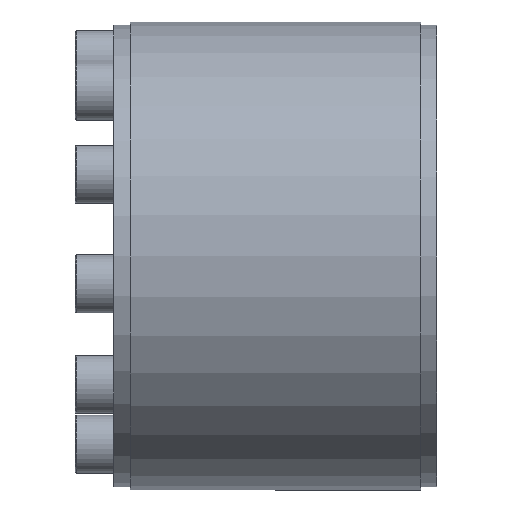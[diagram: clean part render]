
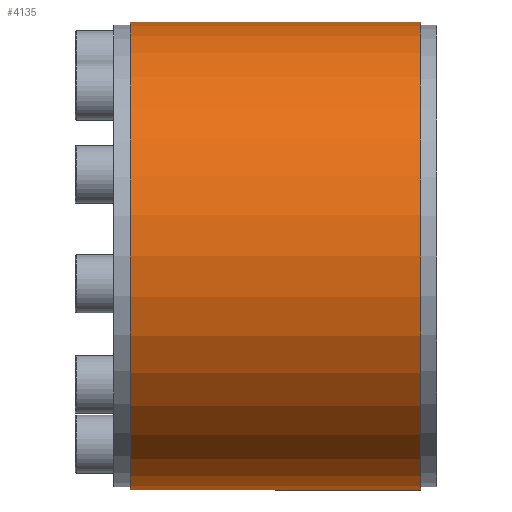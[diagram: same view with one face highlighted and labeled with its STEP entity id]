
A CAD part, left-side view. The second image highlights one B-rep face of the part: STEP entity #4135.
In plain terms, the highlighted cylindrical face has radius 72.5 mm (diameter 145 mm), a partial arc.
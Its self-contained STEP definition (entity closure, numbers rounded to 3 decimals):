
#19 = VECTOR ( 'NONE', #534, 1000. ) ;
#155 = DIRECTION ( 'NONE',  ( 0., 0., -1. ) ) ;
#160 = ORIENTED_EDGE ( 'NONE', *, *, #2992, .T. ) ;
#217 = CARTESIAN_POINT ( 'NONE',  ( 0., 0., -72.5 ) ) ;
#264 = CARTESIAN_POINT ( 'NONE',  ( 0., 45., -72.5 ) ) ;
#466 = CYLINDRICAL_SURFACE ( 'NONE', #2486, 72.5 ) ;
#534 = DIRECTION ( 'NONE',  ( 0., -1., 0. ) ) ;
#621 = DIRECTION ( 'NONE',  ( 0., 0., -1. ) ) ;
#627 = CIRCLE ( 'NONE', #4032, 72.5 ) ;
#809 = DIRECTION ( 'NONE',  ( 0., -1., 0. ) ) ;
#987 = EDGE_LOOP ( 'NONE', ( #1857, #3122, #160, #1578 ) ) ;
#1021 = EDGE_CURVE ( 'NONE', #2663, #1813, #2385, .T. ) ;
#1222 = DIRECTION ( 'NONE',  ( 0., 0., -1. ) ) ;
#1378 = CARTESIAN_POINT ( 'NONE',  ( 0., -45., 72.5 ) ) ;
#1553 = VERTEX_POINT ( 'NONE', #1378 ) ;
#1578 = ORIENTED_EDGE ( 'NONE', *, *, #2322, .F. ) ;
#1743 = LINE ( 'NONE', #2132, #3231 ) ;
#1772 = EDGE_CURVE ( 'NONE', #2663, #1553, #1743, .T. ) ;
#1813 = VERTEX_POINT ( 'NONE', #264 ) ;
#1857 = ORIENTED_EDGE ( 'NONE', *, *, #1772, .F. ) ;
#2132 = CARTESIAN_POINT ( 'NONE',  ( 0., 0., 72.5 ) ) ;
#2177 = CARTESIAN_POINT ( 'NONE',  ( 0., -45., 0. ) ) ;
#2322 = EDGE_CURVE ( 'NONE', #1553, #4053, #627, .T. ) ;
#2385 = CIRCLE ( 'NONE', #2612, 72.5 ) ;
#2441 = DIRECTION ( 'NONE',  ( 0., -1., 0. ) ) ;
#2486 = AXIS2_PLACEMENT_3D ( 'NONE', #2697, #809, #155 ) ;
#2496 = DIRECTION ( 'NONE',  ( 0., -1., 0. ) ) ;
#2612 = AXIS2_PLACEMENT_3D ( 'NONE', #2730, #2496, #621 ) ;
#2663 = VERTEX_POINT ( 'NONE', #2819 ) ;
#2697 = CARTESIAN_POINT ( 'NONE',  ( 0., 0., 0. ) ) ;
#2730 = CARTESIAN_POINT ( 'NONE',  ( 0., 45., 0. ) ) ;
#2819 = CARTESIAN_POINT ( 'NONE',  ( 0., 45., 72.5 ) ) ;
#2992 = EDGE_CURVE ( 'NONE', #1813, #4053, #3217, .T. ) ;
#3113 = DIRECTION ( 'NONE',  ( 0., -1., 0. ) ) ;
#3122 = ORIENTED_EDGE ( 'NONE', *, *, #1021, .T. ) ;
#3217 = LINE ( 'NONE', #217, #19 ) ;
#3231 = VECTOR ( 'NONE', #2441, 1000. ) ;
#3615 = CARTESIAN_POINT ( 'NONE',  ( 0., -45., -72.5 ) ) ;
#3866 = FACE_OUTER_BOUND ( 'NONE', #987, .T. ) ;
#4032 = AXIS2_PLACEMENT_3D ( 'NONE', #2177, #3113, #1222 ) ;
#4053 = VERTEX_POINT ( 'NONE', #3615 ) ;
#4135 = ADVANCED_FACE ( 'NONE', ( #3866 ), #466, .T. ) ;
